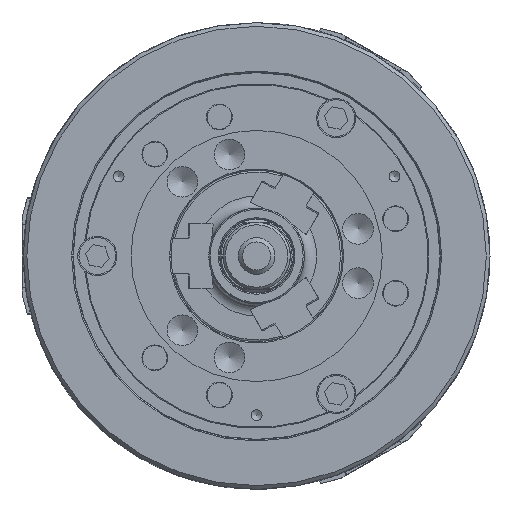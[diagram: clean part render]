
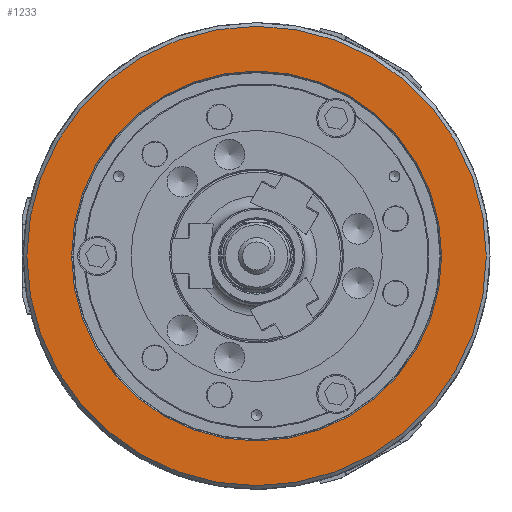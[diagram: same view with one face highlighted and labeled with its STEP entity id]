
A CAD part, left-side view. The second image highlights one B-rep face of the part: STEP entity #1233.
In plain terms, the highlighted planar face has unit normal (-1, 0, 0).
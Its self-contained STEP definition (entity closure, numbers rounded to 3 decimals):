
#1233 = ADVANCED_FACE ( 'NONE', ( #82664, #49497 ), #71717, .F. ) ;
#9566 = DIRECTION ( 'NONE',  ( -1., 0., 0. ) ) ;
#18500 = DIRECTION ( 'NONE',  ( 0., 0., 1. ) ) ;
#23429 = EDGE_CURVE ( 'NONE', #62575, #62575, #64632, .T. ) ;
#32138 = DIRECTION ( 'NONE',  ( -1., 0., 0. ) ) ;
#32808 = ORIENTED_EDGE ( 'NONE', *, *, #51898, .F. ) ;
#37399 = DIRECTION ( 'NONE',  ( 0., 0., 1. ) ) ;
#46842 = ORIENTED_EDGE ( 'NONE', *, *, #23429, .T. ) ;
#49497 = FACE_OUTER_BOUND ( 'NONE', #56163, .T. ) ;
#51898 = EDGE_CURVE ( 'NONE', #53688, #53688, #73021, .T. ) ;
#53688 = VERTEX_POINT ( 'NONE', #60617 ) ;
#56163 = EDGE_LOOP ( 'NONE', ( #46842 ) ) ;
#56861 = CARTESIAN_POINT ( 'NONE',  ( -114., 187.5, 0. ) ) ;
#57176 = DIRECTION ( 'NONE',  ( 0., 0., -1. ) ) ;
#60617 = CARTESIAN_POINT ( 'NONE',  ( -114., 0., 151. ) ) ;
#62466 = AXIS2_PLACEMENT_3D ( 'NONE', #56861, #78537, #57176 ) ;
#62575 = VERTEX_POINT ( 'NONE', #76692 ) ;
#64632 = CIRCLE ( 'NONE', #66280, 187.5 ) ;
#66280 = AXIS2_PLACEMENT_3D ( 'NONE', #72662, #9566, #37399 ) ;
#67409 = CARTESIAN_POINT ( 'NONE',  ( -114., 0., 0. ) ) ;
#71717 = PLANE ( 'NONE',  #62466 ) ;
#72662 = CARTESIAN_POINT ( 'NONE',  ( -114., 0., 0. ) ) ;
#73021 = CIRCLE ( 'NONE', #78414, 151. ) ;
#76692 = CARTESIAN_POINT ( 'NONE',  ( -114., 0., 187.5 ) ) ;
#78414 = AXIS2_PLACEMENT_3D ( 'NONE', #67409, #32138, #18500 ) ;
#78537 = DIRECTION ( 'NONE',  ( 1., 0., 0. ) ) ;
#82664 = FACE_BOUND ( 'NONE', #85289, .T. ) ;
#85289 = EDGE_LOOP ( 'NONE', ( #32808 ) ) ;
